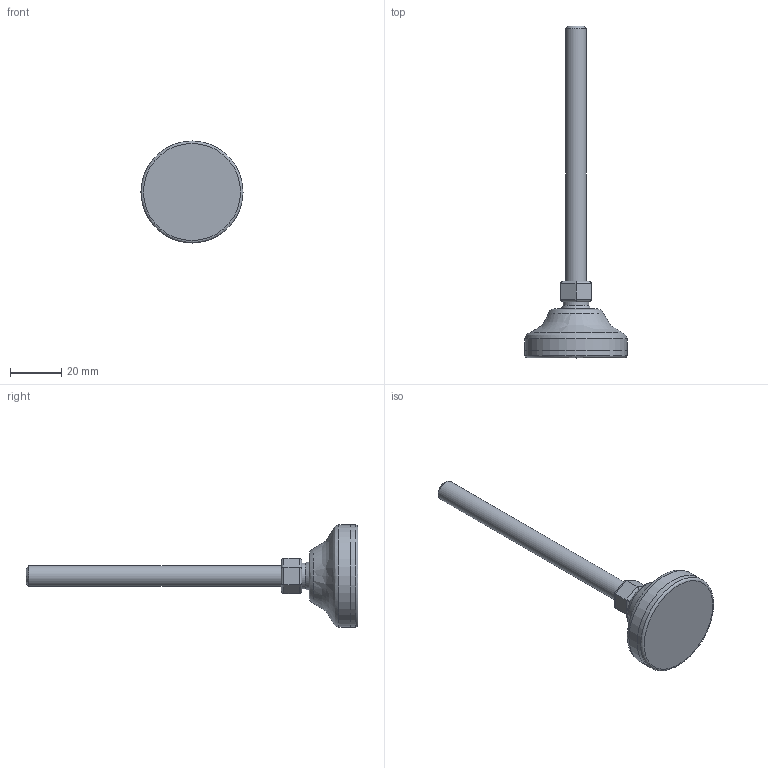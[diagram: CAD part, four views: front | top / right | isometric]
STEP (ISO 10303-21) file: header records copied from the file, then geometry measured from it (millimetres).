
FILE_DESCRIPTION(('STEP AP203'),'2;1');
FILE_NAME('10227.stp','2015-03-30T15:46:44',(''),(''),'2008.1.107','THINKDESIGN','');
FILE_SCHEMA(('CONFIG_CONTROL_DESIGN'));
Length unit declared in the file: millimetre
Bounding box: 40 x 130 x 40 mm (x, y, z)
Volume: 23295.7 mm3; surface area: 9848.4 mm2
Topology: 5 solids, 5 shells, 38 faces, 80 edges, 52 vertices
Faces by surface type: plane 16, cylinder 16, bspline 6
Full cylindrical faces by diameter (mm): 8 x1, 10.163 x1, 39.997 x1, 40 x1
Entity records: 1567 total; most frequent: CARTESIAN_POINT 673, DIRECTION 165, ORIENTED_EDGE 160, EDGE_CURVE 80, AXIS2_PLACEMENT_3D 65, VERTEX_POINT 52, EDGE_LOOP 38, FACE_OUTER_BOUND 38
